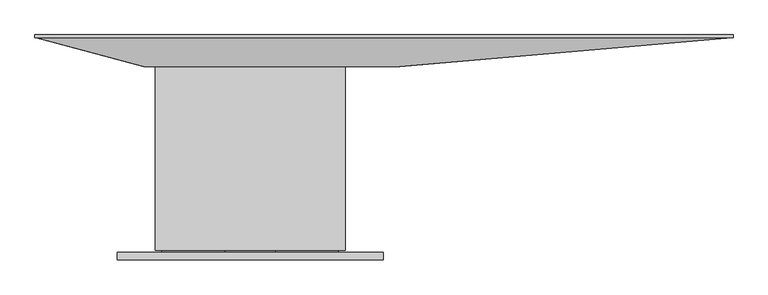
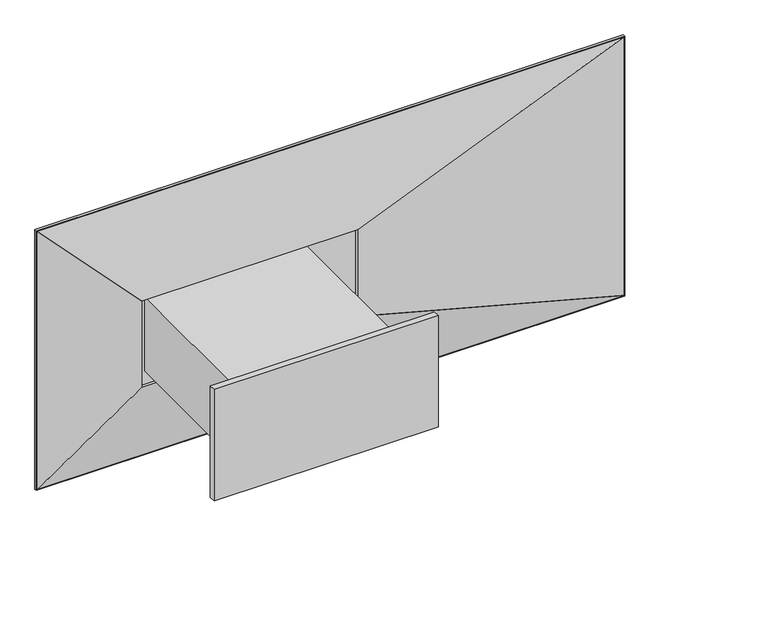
"""IFC4 building model written with IfcOpenShell, lengths in millimetres: proxy geometry, AERO^OFFICE 6_DL2 DESK-SOLID ASSEMBLY."""

from ifc_helpers import new_model, si_unit, frame, origin, origin_with_axes, place, context, project, spatial, polyline, outline, extrude, faceted_brep, source, transform, mapped, element, save


def generic_models_f065094a(model_context):
    return source(origin(), model_context, "Body", "SolidModel", [
        faceted_brep([(-390.525, 725.4875, 682.625), (-38.1, 631.0555059, 330.2), (-38.1, 644.2035133, 330.2), (-341.455968, 725.4875, 633.555968), (-38.1, 631.0555059, -25.4), (-390.525, 725.4875, -377.825), (-341.455968, 725.4875, -328.755968), (-38.1, 644.2035133, -25.4)], [[[0, 1, 2, 3]], [[4, 5, 6, 7]], [[1, 0, 5, 4]], [[0, 3, 6, 5]], [[3, 2, 7, 6]], [[2, 1, 4, 7]]]),
        faceted_brep([(1737.4972706, 725.4875, -328.755968), (800.1, 644.2035133, -25.4), (800.1, 631.0555059, -25.4), (1889.125, 725.4875, -377.825), (-341.455968, 725.4875, -328.755968), (-38.1, 644.2035133, -25.4), (-390.525, 725.4875, -377.825), (-38.1, 631.0555059, -25.4)], [[[0, 1, 2, 3]], [[1, 0, 4, 5]], [[0, 3, 6, 4]], [[2, 1, 5, 7]], [[5, 4, 6, 7]], [[3, 2, 7, 6]]]),
        faceted_brep([(800.1, 644.2035133, 330.2), (1737.4972706, 725.4875, 633.555968), (1889.125, 725.4875, 682.625), (800.1, 631.0555059, 330.2), (-38.1, 631.0555059, 330.2), (-38.1, 644.2035133, 330.2), (-390.525, 725.4875, 682.625), (-341.455968, 725.4875, 633.555968)], [[[0, 1, 2, 3]], [[0, 3, 4, 5]], [[3, 2, 6, 4]], [[1, 0, 5, 7]], [[2, 1, 7, 6]], [[6, 7, 5, 4]]]),
        faceted_brep([(1737.4972706, 725.4875, -328.755968), (800.1, 644.2035133, -25.4), (800.1, 644.2035133, 330.2), (1737.4972706, 725.4875, 633.555968), (800.1, 631.0555059, -25.4), (800.1, 631.0555059, 330.2), (1889.125, 725.4875, -377.825), (1889.125, 725.4875, 682.625)], [[[0, 1, 2, 3]], [[1, 4, 5, 2]], [[4, 6, 7, 5]], [[6, 0, 3, 7]], [[6, 4, 1, 0]], [[5, 7, 3, 2]]]),
        extrude(outline(polyline([(-393.7, 735.0125), (1892.3, 735.0125), (1892.3, 725.4875), (-393.7, 725.4875), (-393.7, 735.0125)])), frame((0.0, 0.0, -381.0), z_axis=(0.0, 0.0, 1.0), x_axis=(1.0, 0.0, 0.0)), (0.0, 0.0, 1.0), 1066.8),
        extrude(outline(polyline([(-123.825, -3.175), (-123.825, 22.08784), (746.125, 22.08784), (746.125, -3.175), (-123.825, -3.175)])), frame((0.0, 0.0, -76.2), z_axis=(0.0, 0.0, 1.0), x_axis=(1.0, 0.0, 0.0)), (0.0, 0.0, 1.0), 457.2),
        extrude(outline(polyline([(229.25659, 491.98784), (393.04341, 491.98784), (393.04341, 22.08784), (229.25659, 22.08784), (229.25659, 491.98784)])), frame((0.0, 0.0, 263.66216), z_axis=(0.0, 0.0, 1.0), x_axis=(1.0, 0.0, 0.0)), (0.0, 0.0, 1.0), 22.08784),
        extrude(outline(polyline([(285.75, 228.46284), (285.75, 22.225), (19.05, 22.225), (19.05, 600.075), (285.75, 600.075), (285.75, 393.83716), (263.66216, 393.83716), (263.66216, 396.875), (282.71216, 396.875), (282.71216, 597.03716), (22.08784, 597.03716), (22.08784, 25.26284), (282.71216, 25.26284), (282.71216, 225.425), (263.66216, 225.425), (263.66216, 228.46284), (285.75, 228.46284)])), frame((0.0, 22.08784, 0.0), z_axis=(0.0, 1.0, 0.0), x_axis=(0.0, 0.0, 1.0)), (0.0, 0.0, 1.0), 533.4),
        extrude(outline(polyline([(0.0, 679.45), (622.3, 679.45), (622.3, 28.575), (0.0, 28.575), (0.0, 679.45)])), origin_with_axes(), (0.0, 0.0, 1.0), 304.8),
    ])


if __name__ == "__main__":
    model = new_model("IFC4")
    model_context = context("Model", 3, world=origin())
    ifc_project = project(units=[si_unit("LENGTHUNIT", "METRE", prefix="MILLI")], contexts=[model_context])
    site = spatial("IfcSite", under=ifc_project)
    building = spatial("IfcBuilding", under=site)
    placement = place(None, origin())
    generic_models_shape = generic_models_f065094a(model_context)
    element("IfcBuildingElementProxy", 1, Name="AERO^OFFICE 6_DL2 DESK-SOLID ASSEMBLY", ObjectType="AERO^OFFICE 6_DL2 DESK-SOLID ASSEMBLY", at=placement, inside=building, context=model_context, shape_type="MappedRepresentation", body=[
        mapped(generic_models_shape, transform((0.0, 0.0, 0.0), x_axis=(1.0, 0.0, 0.0), y_axis=(0.0, 1.0, 0.0), z_axis=(0.0, 0.0, 1.0))),
    ])
    save(model, "model.ifc")
